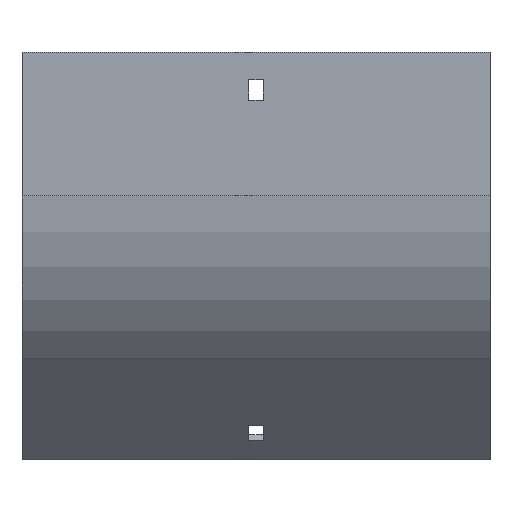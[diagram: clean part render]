
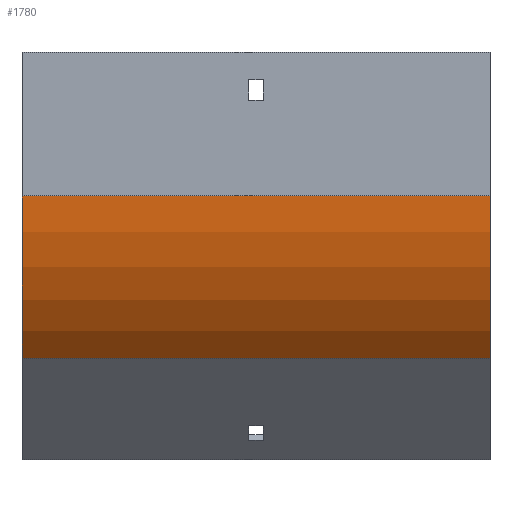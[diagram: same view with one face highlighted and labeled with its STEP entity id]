
A CAD part, front view. The second image highlights one B-rep face of the part: STEP entity #1780.
In plain terms, the highlighted cylindrical face has radius 100 mm (diameter 200 mm), a partial arc.
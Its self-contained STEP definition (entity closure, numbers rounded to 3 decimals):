
#34 = DIRECTION ( 'NONE',  ( 1., 0., 0. ) ) ;
#72 = AXIS2_PLACEMENT_3D ( 'NONE', #1599, #227, #104 ) ;
#104 = DIRECTION ( 'NONE',  ( 0., 0., 1. ) ) ;
#187 = EDGE_CURVE ( 'NONE', #852, #1362, #434, .T. ) ;
#227 = DIRECTION ( 'NONE',  ( -1., 0., 0. ) ) ;
#277 = CARTESIAN_POINT ( 'NONE',  ( 102., -79., -62.723 ) ) ;
#286 = DIRECTION ( 'NONE',  ( -1., 0., 0. ) ) ;
#317 = EDGE_LOOP ( 'NONE', ( #475, #1807, #1076, #861 ) ) ;
#434 = CIRCLE ( 'NONE', #875, 100. ) ;
#441 = LINE ( 'NONE', #608, #467 ) ;
#467 = VECTOR ( 'NONE', #1032, 1000. ) ;
#475 = ORIENTED_EDGE ( 'NONE', *, *, #734, .T. ) ;
#608 = CARTESIAN_POINT ( 'NONE',  ( 102., -49.711, -133.434 ) ) ;
#629 = VERTEX_POINT ( 'NONE', #1684 ) ;
#734 = EDGE_CURVE ( 'NONE', #1374, #629, #1710, .T. ) ;
#852 = VERTEX_POINT ( 'NONE', #277 ) ;
#861 = ORIENTED_EDGE ( 'NONE', *, *, #1859, .T. ) ;
#875 = AXIS2_PLACEMENT_3D ( 'NONE', #1093, #34, #1106 ) ;
#956 = AXIS2_PLACEMENT_3D ( 'NONE', #1134, #1882, #989 ) ;
#989 = DIRECTION ( 'NONE',  ( 0., 0., 1. ) ) ;
#1032 = DIRECTION ( 'NONE',  ( -1., 0., 0. ) ) ;
#1045 = CARTESIAN_POINT ( 'NONE',  ( 102., -79., -62.723 ) ) ;
#1076 = ORIENTED_EDGE ( 'NONE', *, *, #187, .F. ) ;
#1093 = CARTESIAN_POINT ( 'NONE',  ( 102., 21., -62.723 ) ) ;
#1106 = DIRECTION ( 'NONE',  ( 0., 0., 1. ) ) ;
#1110 = EDGE_CURVE ( 'NONE', #1362, #629, #441, .T. ) ;
#1134 = CARTESIAN_POINT ( 'NONE',  ( -102., 21., -62.723 ) ) ;
#1155 = CARTESIAN_POINT ( 'NONE',  ( -102., -79., -62.723 ) ) ;
#1172 = LINE ( 'NONE', #1045, #1389 ) ;
#1362 = VERTEX_POINT ( 'NONE', #1750 ) ;
#1374 = VERTEX_POINT ( 'NONE', #1155 ) ;
#1389 = VECTOR ( 'NONE', #286, 1000. ) ;
#1569 = FACE_OUTER_BOUND ( 'NONE', #317, .T. ) ;
#1599 = CARTESIAN_POINT ( 'NONE',  ( 102., 21., -62.723 ) ) ;
#1684 = CARTESIAN_POINT ( 'NONE',  ( -102., -49.711, -133.434 ) ) ;
#1707 = CYLINDRICAL_SURFACE ( 'NONE', #72, 100. ) ;
#1710 = CIRCLE ( 'NONE', #956, 100. ) ;
#1750 = CARTESIAN_POINT ( 'NONE',  ( 102., -49.711, -133.434 ) ) ;
#1780 = ADVANCED_FACE ( 'NONE', ( #1569 ), #1707, .T. ) ;
#1807 = ORIENTED_EDGE ( 'NONE', *, *, #1110, .F. ) ;
#1859 = EDGE_CURVE ( 'NONE', #852, #1374, #1172, .T. ) ;
#1882 = DIRECTION ( 'NONE',  ( 1., 0., 0. ) ) ;
